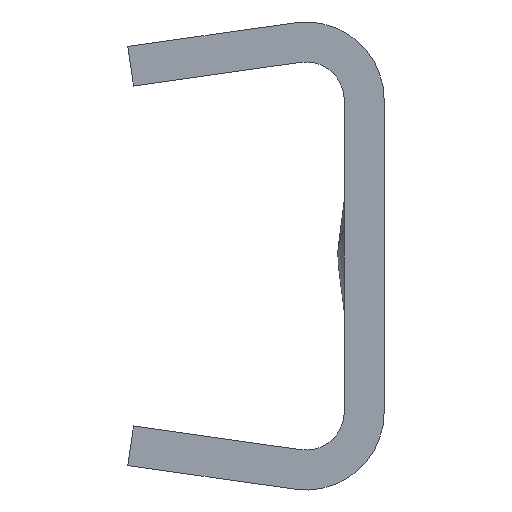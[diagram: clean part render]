
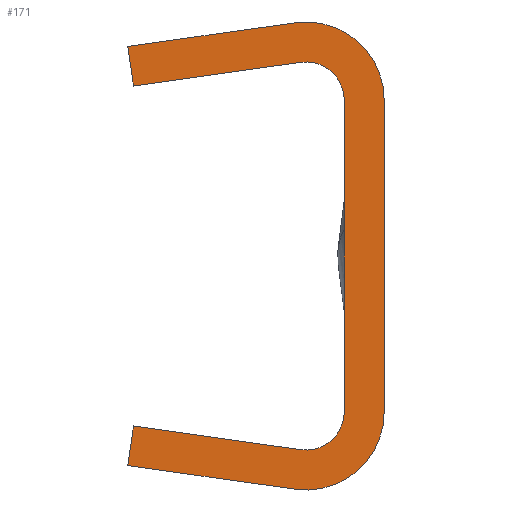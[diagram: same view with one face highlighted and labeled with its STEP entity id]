
A CAD part, left-side view. The second image highlights one B-rep face of the part: STEP entity #171.
In plain terms, the highlighted planar face has unit normal (-1, 0, 0).
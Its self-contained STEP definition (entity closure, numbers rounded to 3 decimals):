
#52=CARTESIAN_POINT('Axis2P3D Location',(-25.,0.,0.)) ;
#57=CARTESIAN_POINT('Line Origine',(-25.,0.,3.5)) ;
#61=CARTESIAN_POINT('Vertex',(-25.,0.,7.)) ;
#63=CARTESIAN_POINT('Vertex',(-25.,0.,0.)) ;
#66=CARTESIAN_POINT('Axis2P3D Location',(-25.,3.5,7.)) ;
#70=CARTESIAN_POINT('Vertex',(-25.,3.992,10.465)) ;
#73=CARTESIAN_POINT('Line Origine',(-25.,7.746,9.933)) ;
#77=CARTESIAN_POINT('Vertex',(-25.,11.5,9.4)) ;
#80=CARTESIAN_POINT('Line Origine',(-25.,11.374,8.513)) ;
#84=CARTESIAN_POINT('Vertex',(-25.,11.248,7.625)) ;
#87=CARTESIAN_POINT('Line Origine',(-25.,7.494,8.158)) ;
#91=CARTESIAN_POINT('Vertex',(-25.,3.74,8.69)) ;
#94=CARTESIAN_POINT('Axis2P3D Location',(-25.,3.5,7.)) ;
#98=CARTESIAN_POINT('Vertex',(-25.,1.793,7.)) ;
#101=CARTESIAN_POINT('Line Origine',(-25.,1.793,3.5)) ;
#105=CARTESIAN_POINT('Vertex',(-25.,1.793,0.)) ;
#108=CARTESIAN_POINT('Line Origine',(-25.,1.793,-3.5)) ;
#112=CARTESIAN_POINT('Vertex',(-25.,1.793,-7.)) ;
#115=CARTESIAN_POINT('Axis2P3D Location',(-25.,3.5,-7.)) ;
#119=CARTESIAN_POINT('Vertex',(-25.,3.74,-8.69)) ;
#122=CARTESIAN_POINT('Line Origine',(-25.,7.494,-8.158)) ;
#126=CARTESIAN_POINT('Vertex',(-25.,11.248,-7.625)) ;
#129=CARTESIAN_POINT('Line Origine',(-25.,11.374,-8.513)) ;
#133=CARTESIAN_POINT('Vertex',(-25.,11.5,-9.4)) ;
#136=CARTESIAN_POINT('Line Origine',(-25.,7.746,-9.933)) ;
#140=CARTESIAN_POINT('Vertex',(-25.,3.992,-10.465)) ;
#143=CARTESIAN_POINT('Axis2P3D Location',(-25.,3.5,-7.)) ;
#147=CARTESIAN_POINT('Vertex',(-25.,0.,-7.)) ;
#150=CARTESIAN_POINT('Line Origine',(-25.,0.,-3.5)) ;
#53=DIRECTION('Axis2P3D Direction',(1.,0.,0.)) ;
#54=DIRECTION('Axis2P3D XDirection',(0.,1.,0.)) ;
#58=DIRECTION('Vector Direction',(0.,0.,1.)) ;
#67=DIRECTION('Axis2P3D Direction',(1.,0.,0.)) ;
#74=DIRECTION('Vector Direction',(0.,0.99,-0.14)) ;
#81=DIRECTION('Vector Direction',(0.,-0.14,-0.99)) ;
#88=DIRECTION('Vector Direction',(0.,-0.99,0.14)) ;
#95=DIRECTION('Axis2P3D Direction',(1.,0.,0.)) ;
#102=DIRECTION('Vector Direction',(0.,0.,1.)) ;
#109=DIRECTION('Vector Direction',(0.,0.,-1.)) ;
#116=DIRECTION('Axis2P3D Direction',(1.,0.,0.)) ;
#123=DIRECTION('Vector Direction',(0.,-0.99,-0.14)) ;
#130=DIRECTION('Vector Direction',(0.,-0.14,0.99)) ;
#137=DIRECTION('Vector Direction',(0.,0.99,0.14)) ;
#144=DIRECTION('Axis2P3D Direction',(1.,0.,0.)) ;
#151=DIRECTION('Vector Direction',(0.,0.,-1.)) ;
#55=AXIS2_PLACEMENT_3D('Plane Axis2P3D',#52,#53,#54) ;
#68=AXIS2_PLACEMENT_3D('Circle Axis2P3D',#66,#67,$) ;
#96=AXIS2_PLACEMENT_3D('Circle Axis2P3D',#94,#95,$) ;
#117=AXIS2_PLACEMENT_3D('Circle Axis2P3D',#115,#116,$) ;
#145=AXIS2_PLACEMENT_3D('Circle Axis2P3D',#143,#144,$) ;
#156=ORIENTED_EDGE('',*,*,#65,.F.) ;
#157=ORIENTED_EDGE('',*,*,#72,.F.) ;
#158=ORIENTED_EDGE('',*,*,#79,.F.) ;
#159=ORIENTED_EDGE('',*,*,#86,.F.) ;
#160=ORIENTED_EDGE('',*,*,#93,.F.) ;
#161=ORIENTED_EDGE('',*,*,#100,.F.) ;
#162=ORIENTED_EDGE('',*,*,#107,.F.) ;
#163=ORIENTED_EDGE('',*,*,#114,.F.) ;
#164=ORIENTED_EDGE('',*,*,#121,.F.) ;
#165=ORIENTED_EDGE('',*,*,#128,.F.) ;
#166=ORIENTED_EDGE('',*,*,#135,.F.) ;
#167=ORIENTED_EDGE('',*,*,#142,.F.) ;
#168=ORIENTED_EDGE('',*,*,#149,.F.) ;
#169=ORIENTED_EDGE('',*,*,#154,.F.) ;
#59=VECTOR('Line Direction',#58,1.) ;
#75=VECTOR('Line Direction',#74,1.) ;
#82=VECTOR('Line Direction',#81,1.) ;
#89=VECTOR('Line Direction',#88,1.) ;
#103=VECTOR('Line Direction',#102,1.) ;
#110=VECTOR('Line Direction',#109,1.) ;
#124=VECTOR('Line Direction',#123,1.) ;
#131=VECTOR('Line Direction',#130,1.) ;
#138=VECTOR('Line Direction',#137,1.) ;
#152=VECTOR('Line Direction',#151,1.) ;
#171=ADVANCED_FACE('PartBody',(#170),#56,.F.) ;
#69=CIRCLE('generated circle',#68,3.5) ;
#97=CIRCLE('generated circle',#96,1.707) ;
#118=CIRCLE('generated circle',#117,1.707) ;
#146=CIRCLE('generated circle',#145,3.5) ;
#65=EDGE_CURVE('',#62,#64,#60,.F.) ;
#72=EDGE_CURVE('',#71,#62,#69,.T.) ;
#79=EDGE_CURVE('',#78,#71,#76,.F.) ;
#86=EDGE_CURVE('',#85,#78,#83,.F.) ;
#93=EDGE_CURVE('',#92,#85,#90,.F.) ;
#100=EDGE_CURVE('',#99,#92,#97,.F.) ;
#107=EDGE_CURVE('',#106,#99,#104,.T.) ;
#114=EDGE_CURVE('',#113,#106,#111,.F.) ;
#121=EDGE_CURVE('',#120,#113,#118,.F.) ;
#128=EDGE_CURVE('',#127,#120,#125,.T.) ;
#135=EDGE_CURVE('',#134,#127,#132,.T.) ;
#142=EDGE_CURVE('',#141,#134,#139,.T.) ;
#149=EDGE_CURVE('',#148,#141,#146,.T.) ;
#154=EDGE_CURVE('',#64,#148,#153,.T.) ;
#155=EDGE_LOOP('',(#156,#157,#158,#159,#160,#161,#162,#163,#164,#165,#166,#167,#168,#169)) ;
#170=FACE_OUTER_BOUND('',#155,.T.) ;
#60=LINE('Line',#57,#59) ;
#76=LINE('Line',#73,#75) ;
#83=LINE('Line',#80,#82) ;
#90=LINE('Line',#87,#89) ;
#104=LINE('Line',#101,#103) ;
#111=LINE('Line',#108,#110) ;
#125=LINE('Line',#122,#124) ;
#132=LINE('Line',#129,#131) ;
#139=LINE('Line',#136,#138) ;
#153=LINE('Line',#150,#152) ;
#56=PLANE('',#55) ;
#62=VERTEX_POINT('',#61) ;
#64=VERTEX_POINT('',#63) ;
#71=VERTEX_POINT('',#70) ;
#78=VERTEX_POINT('',#77) ;
#85=VERTEX_POINT('',#84) ;
#92=VERTEX_POINT('',#91) ;
#99=VERTEX_POINT('',#98) ;
#106=VERTEX_POINT('',#105) ;
#113=VERTEX_POINT('',#112) ;
#120=VERTEX_POINT('',#119) ;
#127=VERTEX_POINT('',#126) ;
#134=VERTEX_POINT('',#133) ;
#141=VERTEX_POINT('',#140) ;
#148=VERTEX_POINT('',#147) ;
